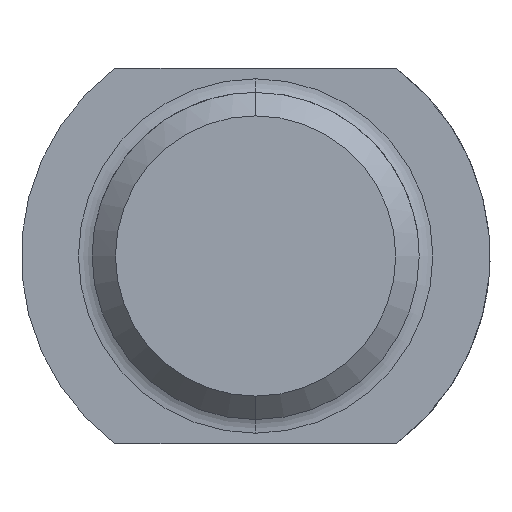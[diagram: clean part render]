
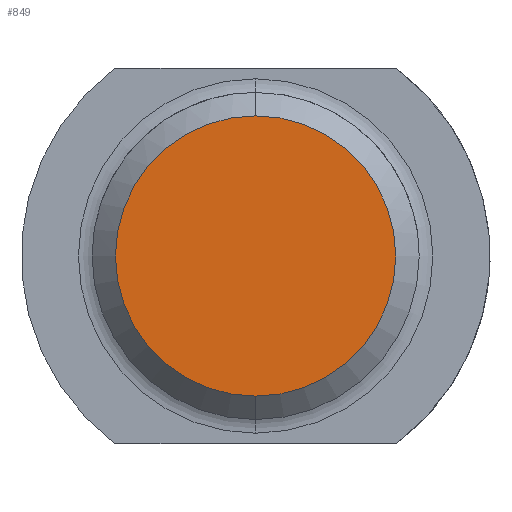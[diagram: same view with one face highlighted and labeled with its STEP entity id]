
A CAD part, left-side view. The second image highlights one B-rep face of the part: STEP entity #849.
In plain terms, the highlighted planar face has unit normal (-1, 0, 0).
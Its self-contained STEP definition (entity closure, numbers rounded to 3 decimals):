
#709=CARTESIAN_POINT('Vertex',(-30.,0.,-12.853)) ;
#712=CARTESIAN_POINT('Axis2P3D Location',(-30.,0.,0.)) ;
#716=CARTESIAN_POINT('Vertex',(-30.,12.853,0.)) ;
#719=CARTESIAN_POINT('Axis2P3D Location',(-30.,0.,0.)) ;
#723=CARTESIAN_POINT('Vertex',(-30.,0.,12.853)) ;
#745=CARTESIAN_POINT('Axis2P3D Location',(-30.,0.,0.)) ;
#749=CARTESIAN_POINT('Vertex',(-30.,-12.853,0.)) ;
#752=CARTESIAN_POINT('Axis2P3D Location',(-30.,0.,0.)) ;
#838=CARTESIAN_POINT('Axis2P3D Location',(-30.,0.,0.)) ;
#713=DIRECTION('Axis2P3D Direction',(1.,0.,-0.)) ;
#720=DIRECTION('Axis2P3D Direction',(1.,0.,-0.)) ;
#746=DIRECTION('Axis2P3D Direction',(1.,0.,-0.)) ;
#753=DIRECTION('Axis2P3D Direction',(1.,0.,-0.)) ;
#839=DIRECTION('Axis2P3D Direction',(1.,0.,-0.)) ;
#840=DIRECTION('Axis2P3D XDirection',(-0.,0.,-1.)) ;
#714=AXIS2_PLACEMENT_3D('Circle Axis2P3D',#712,#713,$) ;
#721=AXIS2_PLACEMENT_3D('Circle Axis2P3D',#719,#720,$) ;
#747=AXIS2_PLACEMENT_3D('Circle Axis2P3D',#745,#746,$) ;
#754=AXIS2_PLACEMENT_3D('Circle Axis2P3D',#752,#753,$) ;
#841=AXIS2_PLACEMENT_3D('Plane Axis2P3D',#838,#839,#840) ;
#844=ORIENTED_EDGE('',*,*,#718,.F.) ;
#845=ORIENTED_EDGE('',*,*,#756,.F.) ;
#846=ORIENTED_EDGE('',*,*,#751,.F.) ;
#847=ORIENTED_EDGE('',*,*,#725,.F.) ;
#849=ADVANCED_FACE('AGS3421M30',(#848),#842,.F.) ;
#715=CIRCLE('generated circle',#714,12.853) ;
#722=CIRCLE('generated circle',#721,12.853) ;
#748=CIRCLE('generated circle',#747,12.853) ;
#755=CIRCLE('generated circle',#754,12.853) ;
#718=EDGE_CURVE('',#710,#717,#715,.T.) ;
#725=EDGE_CURVE('',#717,#724,#722,.T.) ;
#751=EDGE_CURVE('',#724,#750,#748,.T.) ;
#756=EDGE_CURVE('',#750,#710,#755,.T.) ;
#843=EDGE_LOOP('',(#844,#845,#846,#847)) ;
#848=FACE_OUTER_BOUND('',#843,.T.) ;
#842=PLANE('Plane',#841) ;
#710=VERTEX_POINT('',#709) ;
#717=VERTEX_POINT('',#716) ;
#724=VERTEX_POINT('',#723) ;
#750=VERTEX_POINT('',#749) ;
